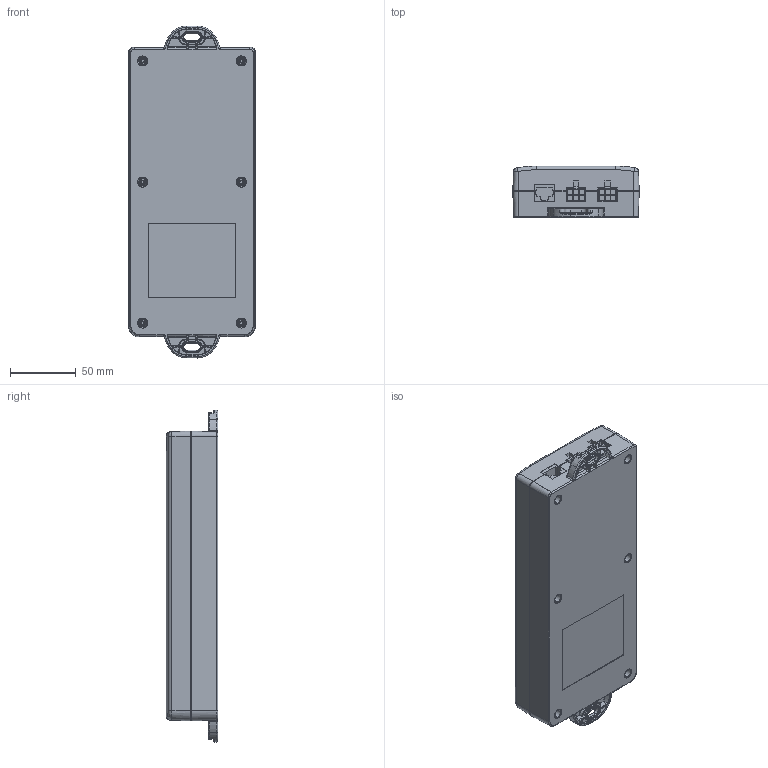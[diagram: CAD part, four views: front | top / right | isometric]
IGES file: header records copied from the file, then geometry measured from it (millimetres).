
Start section: SolidWorks IGES file using analytic representation for surfaces
Global section: file name: C:\Users\lynn\Desktop\CF11.IGS; native system: SolidWorks 2015; preprocessor: SolidWorks 2015; author: lynn; date: 190926.152410; units: millimetre
Bounding box: 96 x 39 x 252 mm (x, y, z)
Surface area: 182979.5 mm2 (no closed solid volume)
Topology: 0 solids, 0 shells, 1454 faces, 12319 edges, 12311 vertices
Faces by surface type: bspline 957, revolution 497
